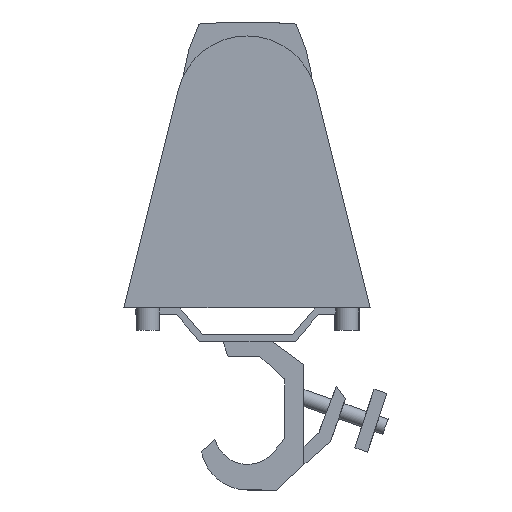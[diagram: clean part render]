
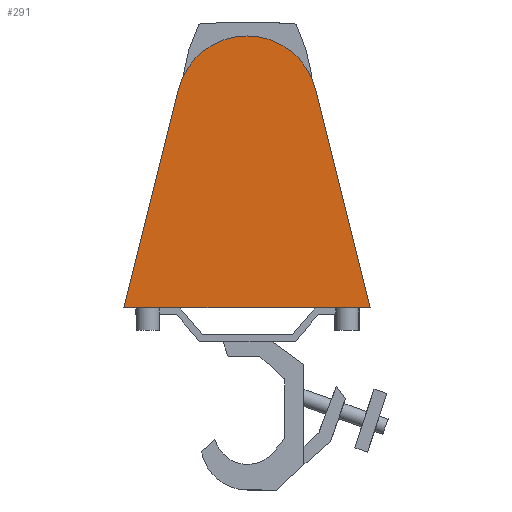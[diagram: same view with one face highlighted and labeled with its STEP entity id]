
A CAD part, left-side view. The second image highlights one B-rep face of the part: STEP entity #291.
In plain terms, the highlighted planar face has unit normal (-1, 0, 0).
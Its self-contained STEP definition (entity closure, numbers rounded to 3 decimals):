
#291 = ADVANCED_FACE( '', ( #622 ), #623, .T. );
#622 = FACE_OUTER_BOUND( '', #1033, .T. );
#623 = PLANE( '', #1034 );
#1033 = EDGE_LOOP( '', ( #1528, #1529, #1530, #1531 ) );
#1034 = AXIS2_PLACEMENT_3D( '', #1532, #1533, #1534 );
#1528 = ORIENTED_EDGE( '', *, *, #2284, .T. );
#1529 = ORIENTED_EDGE( '', *, *, #2285, .T. );
#1530 = ORIENTED_EDGE( '', *, *, #2286, .T. );
#1531 = ORIENTED_EDGE( '', *, *, #2261, .T. );
#1532 = CARTESIAN_POINT( '', ( -505., 0.335, 147.625 ) );
#1533 = DIRECTION( '', ( -1., 0., 0. ) );
#1534 = DIRECTION( '', ( 0., -1., 0. ) );
#2261 = EDGE_CURVE( '', #2646, #2647, #2648, .T. );
#2284 = EDGE_CURVE( '', #2647, #2687, #2688, .T. );
#2285 = EDGE_CURVE( '', #2687, #2689, #2690, .T. );
#2286 = EDGE_CURVE( '', #2689, #2646, #2691, .T. );
#2646 = VERTEX_POINT( '', #3159 );
#2647 = VERTEX_POINT( '', #3160 );
#2648 = LINE( '', #3161, #3162 );
#2687 = VERTEX_POINT( '', #3210 );
#2688 = LINE( '', #3211, #3212 );
#2689 = VERTEX_POINT( '', #3213 );
#2690 = CIRCLE( '', #3214, 52.459 );
#2691 = LINE( '', #3215, #3216 );
#3159 = CARTESIAN_POINT( '', ( -505., 91.607, -1.602 ) );
#3160 = CARTESIAN_POINT( '', ( -505., -90.936, -1.602 ) );
#3161 = CARTESIAN_POINT( '', ( -505., -90.936, -1.602 ) );
#3162 = VECTOR( '', #3683, 1000. );
#3210 = CARTESIAN_POINT( '', ( -505., -50.565, 160.316 ) );
#3211 = CARTESIAN_POINT( '', ( -505., -90.936, -1.602 ) );
#3212 = VECTOR( '', #3723, 1000. );
#3213 = CARTESIAN_POINT( '', ( -505., 51.236, 160.316 ) );
#3214 = AXIS2_PLACEMENT_3D( '', #3724, #3725, #3726 );
#3215 = CARTESIAN_POINT( '', ( -505., 51.236, 160.316 ) );
#3216 = VECTOR( '', #3727, 1000. );
#3683 = DIRECTION( '', ( 0., -1., 0. ) );
#3723 = DIRECTION( '', ( 0., 0.242, 0.97 ) );
#3724 = CARTESIAN_POINT( '', ( -505., 0.335, 147.625 ) );
#3725 = DIRECTION( '', ( -1., 0., 0. ) );
#3726 = DIRECTION( '', ( 0., 1., 0. ) );
#3727 = DIRECTION( '', ( 0., 0.242, -0.97 ) );
